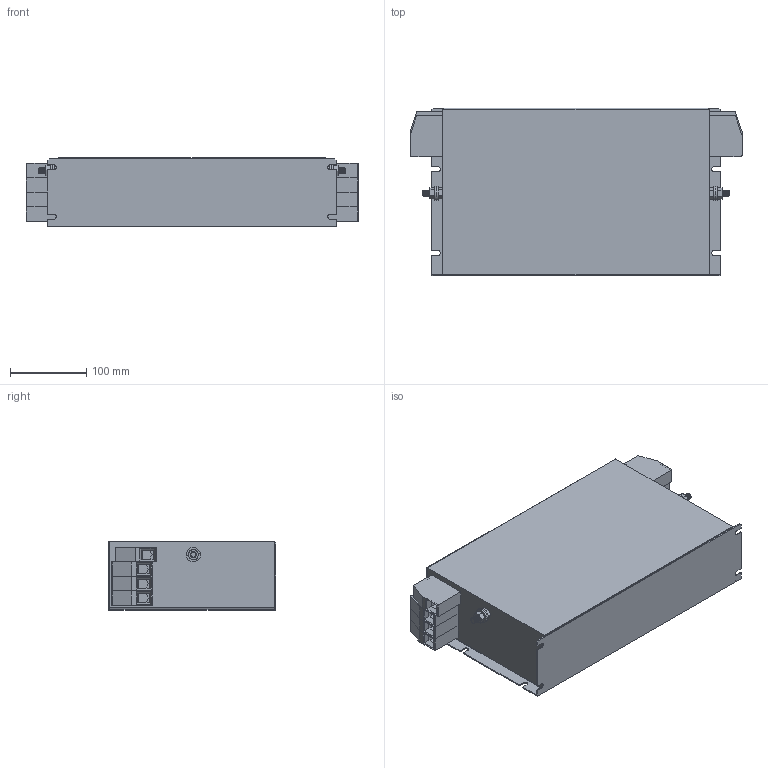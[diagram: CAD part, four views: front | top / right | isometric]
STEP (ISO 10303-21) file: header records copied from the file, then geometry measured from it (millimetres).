
FILE_DESCRIPTION (( 'STEP AP203' ), '1' );
FILE_NAME ('NF-K-4-100.STEP', '2024-10-16T11:09:13', ( '' ), ( '' ), 'SwSTEP 2.0', 'SolidWorks 2017', '' );
FILE_SCHEMA (( 'CONFIG_CONTROL_DESIGN' ));
Length unit declared in the file: millimetre
Products named in the file (7): flat washer narrow_am_B18.22M - Plain washer, 8 mm, narrow; hex nut style 1_am_B18.2.4.1M - Hex nut, Style 1,  M8 x 1.25 --D-N; HDFK-50; M8x20 Earth post; NF-K-4-100; hex screw_am_B18.6.7M - M8 x 1.25 x 20 Plain HHMS --20S; U4 case
Assembly tree (15 placements, depth 3):
  NF-K-4-100
    U4 case
    M8x20 Earth post  x2
      hex screw_am_B18.6.7M - M8 x 1.25 x 20 Plain HHMS --20S
      flat washer narrow_am_B18.22M - Plain washer, 8 mm, narrow
      hex nut style 1_am_B18.2.4.1M - Hex nut, Style 1,  M8 x 1.25 --D-N
    HDFK-50  x8
Bounding box: 436.01 x 220 x 90 mm (x, y, z)
Volume: 7194370.5 mm3; surface area: 405632.5 mm2
Topology: 17 solids, 17 shells, 848 faces, 2064 edges, 1314 vertices
Faces by surface type: plane 476, cylinder 202, cone 168, sphere 2
Entity records: 9389 total; most frequent: CARTESIAN_POINT 1628, DIRECTION 1500, ORIENTED_EDGE 1380, EDGE_CURVE 690, AXIS2_PLACEMENT_3D 556, VERTEX_POINT 436, LINE 388, VECTOR 388
